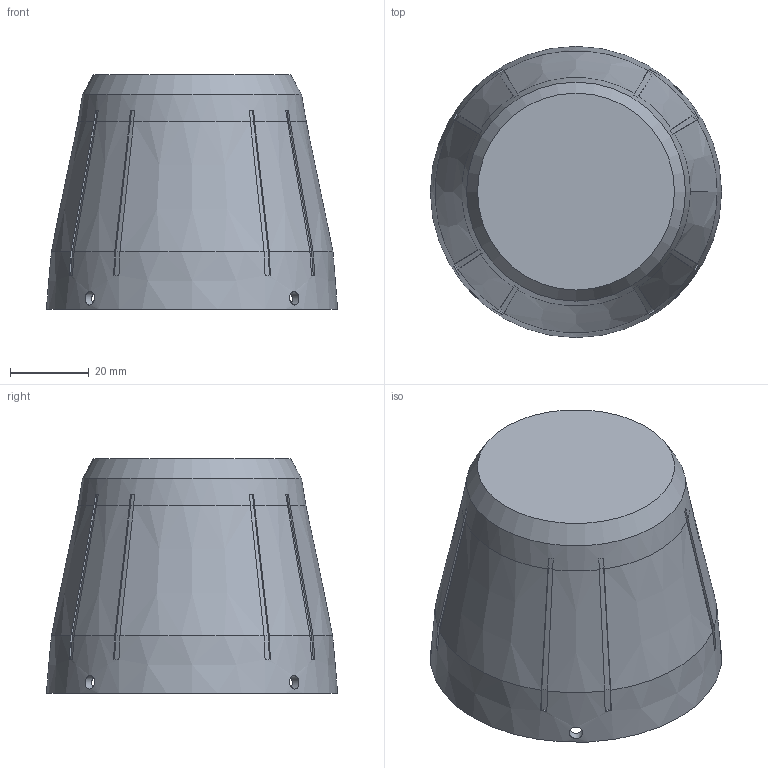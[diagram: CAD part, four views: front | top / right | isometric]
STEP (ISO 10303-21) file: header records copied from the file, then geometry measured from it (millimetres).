
FILE_DESCRIPTION(('FreeCAD Model'),'2;1');
FILE_NAME('Open CASCADE Shape Model','2026-09-19T17:18:18',('FreeCAD'),( 'FreeCAD'),'Open CASCADE STEP processor 7.8','FreeCAD','Unknown');
FILE_SCHEMA(('AUTOMOTIVE_DESIGN { 1 0 10303 214 1 1 1 1 }'));
Length unit declared in the file: millimetre
Products named in the file (1): Open CASCADE STEP translator 7.8 2
Bounding box: 73.94 x 73.94 x 59.6 mm (x, y, z)
Volume: 32188.8 mm3; surface area: 28147.8 mm2
Topology: 1 solids, 1 shells, 79 faces, 222 edges, 146 vertices
Faces by surface type: cone 40, plane 35, cylinder 4
Full cylindrical faces by diameter (mm): 3.4 x4
Entity records: 3516 total; most frequent: CARTESIAN_POINT 1392, DIRECTION 448, ORIENTED_EDGE 444, EDGE_CURVE 222, AXIS2_PLACEMENT_3D 154, VERTEX_POINT 146, LINE 140, VECTOR 140
